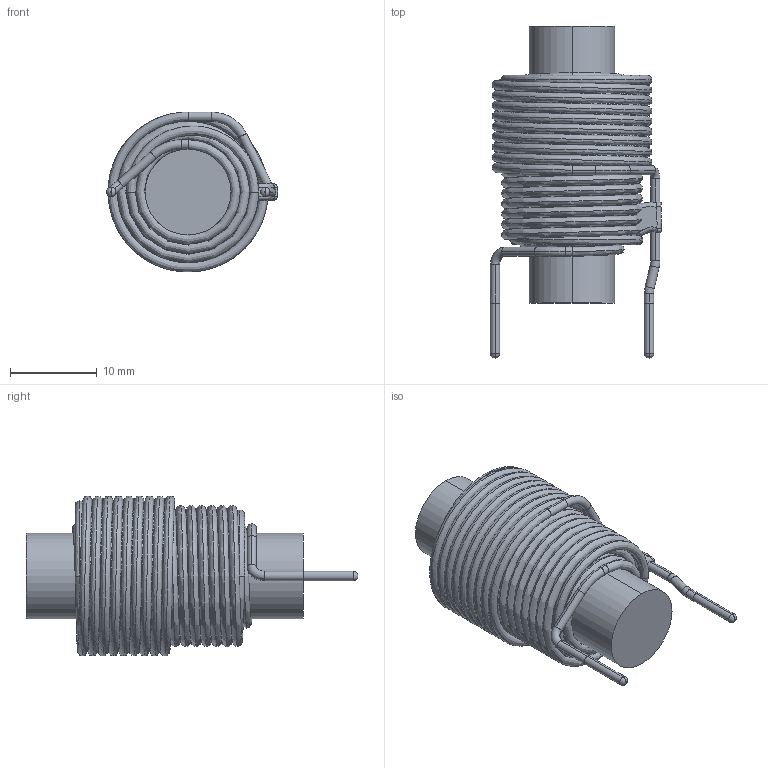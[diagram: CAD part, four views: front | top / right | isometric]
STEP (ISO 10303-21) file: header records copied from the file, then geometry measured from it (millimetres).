
FILE_DESCRIPTION (( 'STEP AP203' ), '1' );
FILE_NAME ('PV-104-05.STEP', '2020-10-01T14:05:57', ( 'Windows User' ), ( '' ), 'SwSTEP 2.0', 'SolidWorks 2015', '' );
FILE_SCHEMA (( 'CONFIG_CONTROL_DESIGN' ));
Length unit declared in the file: inch
Products named in the file (3): PV-104-05; PV-104-05 - CORE; PV-104-05 - COIL
Assembly tree (2 placements, depth 2):
  PV-104-05
    PV-104-05 - CORE
    PV-104-05 - COIL
Bounding box: 19.79 x 38.36 x 18.48 mm (x, y, z)
Volume: 4799.3 mm3; surface area: 9835 mm2
Topology: 13 solids, 13 shells, 92 faces, 181 edges, 112 vertices
Faces by surface type: plane 28, bspline 25, cylinder 23, torus 16
Entity records: 24258 total; most frequent: CARTESIAN_POINT 22237, DIRECTION 356, ORIENTED_EDGE 354, EDGE_CURVE 177, AXIS2_PLACEMENT_3D 165, VERTEX_POINT 112, CIRCLE 93, EDGE_LOOP 93
